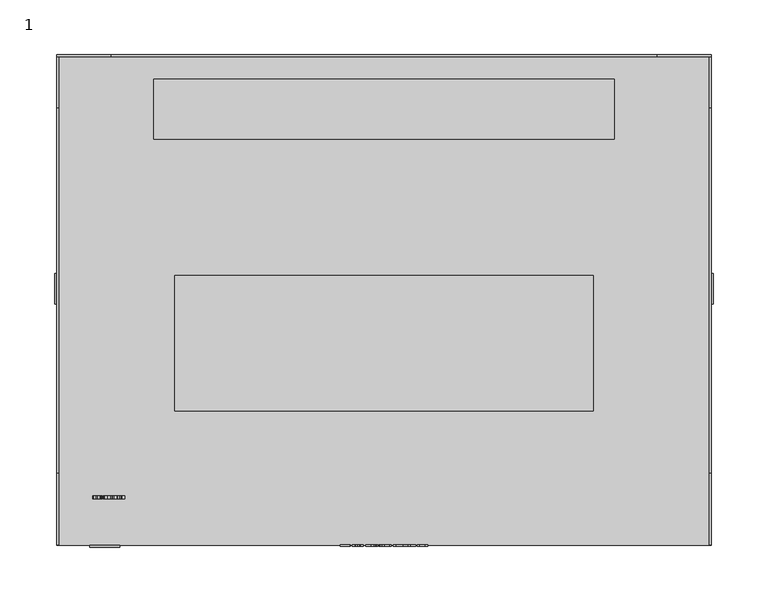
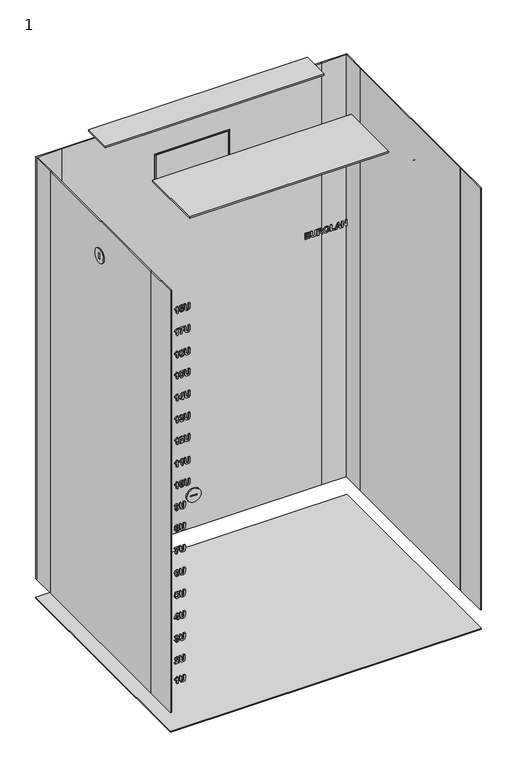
"""IFC4 building model written with IfcOpenShell, lengths in millimetres: proxy geometry, 1 : 18U 450мм металлическая дверь."""

from ifc_helpers import new_model, si_unit, point, frame, frame_2d, origin, origin_with_axes, place, context, project, spatial, polyline, circle_curve, trimmed, segment, composite_curve, outline, extrude, source, transform, mapped, element, save


def proxy_1_87e82789(model_context):
    return source(origin(), model_context, "Body", "SweptSolid", [
        extrude(outline(polyline([(914.0, -40.3245382), (914.0, -30.9964522), (916.1376864, -30.9964522), (916.1376864, -37.9925167), (919.2470483, -37.9925167), (919.2470483, -31.5794576), (921.3847347, -31.5794576), (921.3847347, -37.9925167), (924.1054264, -37.9925167), (924.1054264, -31.1907874), (926.2431128, -31.1907874), (926.2431128, -40.3245382), (914.0, -40.3245382)])), frame((0.0, -226.0, 0.0), z_axis=(0.0, 1.0, 0.0), x_axis=(0.0, 0.0, 1.0)), (0.0, 0.0, 1.0), 1.0),
        extrude(outline(polyline([(926.2431128, -29.053101), (919.7207402, -29.053101), (916.6174512, -28.8071456), (915.2601418, -28.1026808), (914.2095176, -26.6482039), (913.8056649, -23.9487675), (914.1761162, -21.5575346), (915.173602, -20.0954664), (916.7085458, -19.3454543), (919.8209443, -19.1420097), (926.2431128, -19.1420097), (926.2431128, -21.4740312), (919.4960402, -21.4740312), (917.4236383, -21.5924541), (916.3714958, -22.2923642), (915.9433512, -24.0216432), (916.3973059, -25.7979877), (917.5982363, -26.6208755), (919.6387551, -26.7210795), (926.2431128, -26.7210795), (926.2431128, -29.053101)])), frame((0.0, -226.0, 0.0), z_axis=(0.0, 1.0, 0.0), x_axis=(0.0, 0.0, 1.0)), (0.0, 0.0, 1.0), 1.0),
        extrude(outline(polyline([(914.0, -16.8099882), (914.0, -14.4779667), (919.0527132, -13.9435451), (918.9251808, -12.6120459), (918.4560437, -11.8164865), (916.7966039, -10.4242575), (914.0, -8.6509495), (914.0, -5.9272213), (916.3745323, -7.424209), (918.3512849, -8.7238252), (919.3715443, -9.9475291), (920.5071902, -7.6625732), (922.7936644, -6.8988969), (924.7339791, -7.4272455), (925.9121358, -8.8361752), (926.2431128, -11.6601074), (926.2431128, -16.8099882), (914.0, -16.8099882)]), holes=[polyline([(921.1903996, -14.4779667), (924.1054264, -14.4779667), (924.1054264, -12.4495939), (924.0659521, -10.5548264), (923.6150339, -9.5770778), (922.6782779, -9.2309184), (921.817434, -9.4935744), (921.3315962, -10.2223312), (921.1903996, -12.5558709), (921.1903996, -14.4779667)])]), frame((0.0, -226.0, 0.0), z_axis=(0.0, 1.0, 0.0), x_axis=(0.0, 0.0, 1.0)), (0.0, 0.0, 1.0), 1.0),
        extrude(outline(polyline([(920.0456442, -4.9555457), (915.4681411, -3.3735363), (913.8056649, 0.8896905), (915.4757323, 5.1225524), (920.106374, 6.7045618), (924.7628257, 5.1104065), (926.4374479, 0.8593256), (925.9546466, -1.7338337), (924.8539203, -3.2869964), (923.1792981, -4.4059416), (920.0456442, -4.9555457)]), holes=[polyline([(920.1306659, -2.6235242), (923.2612832, -1.6579215), (924.2997616, 0.886654), (923.2734292, 3.4190836), (920.1640672, 4.3725403), (916.9985302, 3.3932735), (915.9433512, 0.886654), (917.0061214, -1.6321114), (920.1306659, -2.6235242)])]), frame((0.0, -226.0, 0.0), z_axis=(0.0, 1.0, 0.0), x_axis=(0.0, 0.0, 1.0)), (0.0, 0.0, 1.0), 1.0),
        extrude(outline(polyline([(914.0, 8.647913), (914.0, 17.1986585), (916.1376864, 17.1986585), (916.1376864, 10.9799345), (926.2431128, 10.9799345), (926.2431128, 8.647913), (914.0, 8.647913)])), frame((0.0, -226.0, 0.0), z_axis=(0.0, 1.0, 0.0), x_axis=(0.0, 0.0, 1.0)), (0.0, 0.0, 1.0), 1.0),
        extrude(outline(polyline([(914.0, 29.2474361), (926.2431128, 24.7352175), (926.2431128, 22.2513717), (914.0, 17.7816638), (914.0, 20.2655096), (916.7206917, 21.2128934), (916.7206917, 25.837462), (914.0, 26.7969917), (914.0, 29.2474361)]), holes=[polyline([(918.8583781, 25.0904864), (918.8583781, 21.959869), (923.3280859, 23.51455), (918.8583781, 25.0904864)])]), frame((0.0, -226.0, 0.0), z_axis=(0.0, 1.0, 0.0), x_axis=(0.0, 0.0, 1.0)), (0.0, 0.0, 1.0), 1.0),
        extrude(outline(polyline([(914.0, 30.4134469), (914.0, 32.7454684), (922.1195644, 32.7454684), (914.0, 37.8042546), (914.0, 40.3245382), (926.2431128, 40.3245382), (926.2431128, 37.9925167), (918.002089, 37.9925167), (926.2431128, 32.8578184), (926.2431128, 30.4134469), (914.0, 30.4134469)])), frame((0.0, -226.0, 0.0), z_axis=(0.0, 1.0, 0.0), x_axis=(0.0, 0.0, 1.0)), (0.0, 0.0, 1.0), 1.0),
        extrude(outline(composite_curve([segment(trimmed(circle_curve(frame_2d((9.997621, 829.4611412)), 14.0), [point((-4.002379, 829.4611412))], [point((23.997621, 829.4611412))], False, "CARTESIAN"), True, "CONTINUOUS"), segment(trimmed(circle_curve(frame_2d((9.997621, 829.4611412)), 14.0), [point((23.997621, 829.4611412))], [point((-4.002379, 829.4611412))], False, "CARTESIAN"), True, "CONTINUOUS")], self_intersect=False), holes=[polyline([(11.0, 835.5), (9.0, 835.5), (9.0, 823.5), (11.0, 823.5), (11.0, 835.5)])]), frame((-302.0, 0.0, 0.0), z_axis=(1.0, 0.0, 0.0), x_axis=(0.0, 1.0, 0.0)), (0.0, 0.0, 1.0), 2.0),
        extrude(outline(composite_curve([segment(trimmed(circle_curve(frame_2d((9.997621, 829.4611412)), 14.0), [point((-4.002379, 829.4611412))], [point((23.997621, 829.4611412))], False, "CARTESIAN"), True, "CONTINUOUS"), segment(trimmed(circle_curve(frame_2d((9.997621, 829.4611412)), 14.0), [point((23.997621, 829.4611412))], [point((-4.002379, 829.4611412))], False, "CARTESIAN"), True, "CONTINUOUS")], self_intersect=False), holes=[polyline([(11.0, 835.5), (9.0, 835.5), (9.0, 823.5), (11.0, 823.5), (11.0, 835.5)])]), frame((300.0, 0.0, 0.0), z_axis=(1.0, 0.0, 0.0), x_axis=(0.0, 1.0, 0.0)), (0.0, 0.0, 1.0), 2.0),
        extrude(outline(composite_curve([segment(trimmed(circle_curve(frame_2d((469.0, -256.0)), 13.7647373), [point((469.0, -242.2352627))], [point((469.0, -269.7647373))], False, "CARTESIAN"), True, "CONTINUOUS"), segment(trimmed(circle_curve(frame_2d((469.0, -256.0)), 13.7647373), [point((469.0, -269.7647373))], [point((469.0, -242.2352627))], False, "CARTESIAN"), True, "CONTINUOUS")], self_intersect=False), holes=[polyline([(470.0, -250.0), (468.0, -250.0), (468.0, -262.0), (470.0, -262.0), (470.0, -250.0)])]), frame((0.0, -227.0, 0.0), z_axis=(0.0, 1.0, 0.0), x_axis=(0.0, 0.0, 1.0)), (0.0, 0.0, 1.0), 2.0),
        extrude(outline(polyline([(300.0, 225.0), (300.0, -225.0), (-300.0, -225.0), (-300.0, 225.0), (300.0, 225.0)])), origin_with_axes(), (0.0, 0.0, 1.0), 2.0),
        extrude(outline(polyline([(211.0, 202.5), (211.0, 147.5), (-211.0, 147.5), (-211.0, 202.5), (211.0, 202.5)])), frame((0.0, 0.0, 934.9795778), z_axis=(0.0, 0.0, 1.0), x_axis=(1.0, 0.0, 0.0)), (0.0, 0.0, 1.0), 3.0204222),
        extrude(outline(polyline([(192.0, 22.0), (192.0, -102.0), (-192.0, -102.0), (-192.0, 22.0), (192.0, 22.0)])), frame((0.0, 0.0, 934.9795778), z_axis=(0.0, 0.0, 1.0), x_axis=(1.0, 0.0, 0.0)), (0.0, 0.0, 1.0), 3.0204222),
        extrude(outline(polyline([(-69.5, 225.0), (69.5, 225.0), (69.5, 223.0), (-69.5, 223.0), (-69.5, 225.0)])), frame((0.0, 0.0, 775.0), z_axis=(0.0, 0.0, 1.0), x_axis=(1.0, 0.0, 0.0)), (0.0, 0.0, 1.0), 49.0),
        extrude(outline(polyline([(900.0, -250.0), (40.0, -250.0), (40.0, 250.0), (900.0, 250.0), (900.0, -250.0)]), holes=[polyline([(827.0, -72.5), (827.0, 72.5), (772.0, 72.5), (772.0, -72.5), (827.0, -72.5)])]), frame((0.0, 223.0, 0.0), z_axis=(0.0, 1.0, 0.0), x_axis=(0.0, 0.0, 1.0)), (0.0, 0.0, 1.0), 2.0),
        extrude(outline(polyline([(-300.0, 225.0), (-250.0, 225.0), (-250.0, 223.0), (-300.0, 223.0), (-300.0, 225.0)])), frame((0.0, 0.0, 40.0), z_axis=(0.0, 0.0, 1.0), x_axis=(1.0, 0.0, 0.0)), (0.0, 0.0, 1.0), 860.0),
        extrude(outline(polyline([(250.0, 225.0), (300.0, 225.0), (300.0, 223.0), (250.0, 223.0), (250.0, 225.0)])), frame((0.0, 0.0, 40.0), z_axis=(0.0, 0.0, 1.0), x_axis=(1.0, 0.0, 0.0)), (0.0, 0.0, 1.0), 860.0),
        extrude(outline(polyline([(-298.0, 175.8155315), (-298.0, -158.7095641), (-300.0, -158.7095641), (-300.0, 175.8155315), (-298.0, 175.8155315)])), frame((0.0, 0.0, 40.0), z_axis=(0.0, 0.0, 1.0), x_axis=(1.0, 0.0, 0.0)), (0.0, 0.0, 1.0), 860.0),
        extrude(outline(polyline([(-298.0, -158.7095641), (-298.0, -225.0), (-300.0, -225.0), (-300.0, -158.7095641), (-298.0, -158.7095641)])), frame((0.0, 0.0, 40.0), z_axis=(0.0, 0.0, 1.0), x_axis=(1.0, 0.0, 0.0)), (0.0, 0.0, 1.0), 860.0),
        extrude(outline(polyline([(-298.0, 225.0), (-298.0, 175.8155315), (-300.0, 175.8155315), (-300.0, 225.0), (-298.0, 225.0)])), frame((0.0, 0.0, 40.0), z_axis=(0.0, 0.0, 1.0), x_axis=(1.0, 0.0, 0.0)), (0.0, 0.0, 1.0), 860.0),
        extrude(outline(polyline([(300.0, 175.8155315), (300.0, -158.7095641), (298.0, -158.7095641), (298.0, 175.8155315), (300.0, 175.8155315)])), frame((0.0, 0.0, 40.0), z_axis=(0.0, 0.0, 1.0), x_axis=(1.0, 0.0, 0.0)), (0.0, 0.0, 1.0), 860.0),
        extrude(outline(polyline([(300.0, 225.0), (300.0, 175.8155315), (298.0, 175.8155315), (298.0, 225.0), (300.0, 225.0)])), frame((0.0, 0.0, 40.0), z_axis=(0.0, 0.0, 1.0), x_axis=(1.0, 0.0, 0.0)), (0.0, 0.0, 1.0), 860.0),
        extrude(outline(polyline([(300.0, -158.7095641), (300.0, -225.0), (298.0, -225.0), (298.0, -158.7095641), (300.0, -158.7095641)])), frame((0.0, 0.0, 40.0), z_axis=(0.0, 0.0, 1.0), x_axis=(1.0, 0.0, 0.0)), (0.0, 0.0, 1.0), 860.0),
        extrude(outline(polyline([(814.9283299, -260.6030776), (827.1714427, -260.6030776), (827.1714427, -262.4614073), (825.2053178, -263.9037383), (824.0620807, -265.850126), (821.7300592, -265.850126), (823.6794834, -262.9350991), (814.9283299, -262.9350991), (814.9283299, -260.6030776)])), frame((0.0, -182.6777479, 0.0), z_axis=(0.0, 1.0, 0.0), x_axis=(0.0, 0.0, 1.0)), (0.0, 0.0, 1.0), 3.0),
        extrude(outline(polyline([(821.4962498, -255.0584536), (820.2254803, -256.6116164), (818.4172527, -257.1050454), (815.6024299, -255.8388306), (814.7339948, -253.1545767), (815.784619, -250.3761917), (818.5174567, -249.3316405), (820.3120201, -249.8584708), (821.4962498, -251.3964511), (822.508918, -250.0163681), (824.0226064, -249.5259756), (826.280234, -250.4946147), (827.1714427, -253.2183429), (826.280234, -255.9496624), (824.0226064, -256.9107103), (822.5499105, -256.4704198), (821.4962498, -255.0584536)]), holes=[polyline([(823.8798915, -254.5786888), (825.000355, -254.205201), (825.4224266, -253.2031605), (825.0033915, -252.2269302), (823.889001, -251.8579971), (822.7320997, -252.2314849), (822.3130646, -253.2274524), (822.727545, -254.2097557), (823.8798915, -254.5786888)]), polyline([(818.6146243, -254.7730239), (819.94916, -254.3889084), (820.5640485, -253.2213794), (820.0220357, -252.1039525), (818.5872959, -251.6636619), (817.0250237, -252.0963612), (816.4830109, -253.1910146), (817.0462791, -254.3205875), (818.6146243, -254.7730239)])]), frame((0.0, -182.6777479, 0.0), z_axis=(0.0, 1.0, 0.0), x_axis=(0.0, 0.0, 1.0)), (0.0, 0.0, 1.0), 3.0),
        extrude(outline(polyline([(827.1714427, -247.3882892), (820.6490701, -247.3882892), (817.5457811, -247.1423338), (816.1884717, -246.437869), (815.1378475, -244.9833921), (814.7339948, -242.2839557), (815.1044461, -239.8927228), (816.1019319, -238.4306546), (817.6368757, -237.6806425), (820.7492742, -237.4771979), (827.1714427, -237.4771979), (827.1714427, -239.8092194), (820.4243701, -239.8092194), (818.3519682, -239.9276424), (817.2998257, -240.6275524), (816.8716811, -242.3568314), (817.3256358, -244.1331759), (818.5265662, -244.9560637), (820.567085, -245.0562677), (827.1714427, -245.0562677), (827.1714427, -247.3882892)])), frame((0.0, -182.6777479, 0.0), z_axis=(0.0, 1.0, 0.0), x_axis=(0.0, 0.0, 1.0)), (0.0, 0.0, 1.0), 3.0),
        extrude(outline(polyline([(769.9283299, -260.6030776), (782.1714427, -260.6030776), (782.1714427, -262.4614073), (780.2053178, -263.9037383), (779.0620807, -265.850126), (776.7300592, -265.850126), (778.6794834, -262.9350991), (769.9283299, -262.9350991), (769.9283299, -260.6030776)])), frame((0.0, -182.6777479, 0.0), z_axis=(0.0, 1.0, 0.0), x_axis=(0.0, 0.0, 1.0)), (0.0, 0.0, 1.0), 3.0),
        extrude(outline(polyline([(779.6450861, -257.1050454), (779.6450861, -251.9976754), (775.0129262, -254.6804111), (769.9283299, -255.7446995), (769.9283299, -253.4126781), (773.5812229, -252.8873659), (777.440597, -251.3342032), (780.2280915, -249.3316405), (781.9771076, -249.3316405), (781.9771076, -257.1050454), (779.6450861, -257.1050454)])), frame((0.0, -182.6777479, 0.0), z_axis=(0.0, 1.0, 0.0), x_axis=(0.0, 0.0, 1.0)), (0.0, 0.0, 1.0), 3.0),
        extrude(outline(polyline([(782.1714427, -247.3882892), (775.6490701, -247.3882892), (772.5457811, -247.1423338), (771.1884717, -246.437869), (770.1378475, -244.9833921), (769.7339948, -242.2839557), (770.1044461, -239.8927228), (771.1019319, -238.4306546), (772.6368757, -237.6806425), (775.7492742, -237.4771979), (782.1714427, -237.4771979), (782.1714427, -239.8092194), (775.4243701, -239.8092194), (773.3519682, -239.9276424), (772.2998257, -240.6275524), (771.8716811, -242.3568314), (772.3256358, -244.1331759), (773.5265662, -244.9560637), (775.567085, -245.0562677), (782.1714427, -245.0562677), (782.1714427, -247.3882892)])), frame((0.0, -182.6777479, 0.0), z_axis=(0.0, 1.0, 0.0), x_axis=(0.0, 0.0, 1.0)), (0.0, 0.0, 1.0), 3.0),
        extrude(outline(polyline([(723.5967514, -260.6030776), (735.8398642, -260.6030776), (735.8398642, -262.4614073), (733.8737393, -263.9037383), (732.7305022, -265.850126), (730.3984808, -265.850126), (732.347905, -262.9350991), (723.5967514, -262.9350991), (723.5967514, -260.6030776)])), frame((0.0, -182.6777479, 0.0), z_axis=(0.0, 1.0, 0.0), x_axis=(0.0, 0.0, 1.0)), (0.0, 0.0, 1.0), 3.0),
        extrude(outline(polyline([(732.5908239, -249.5259756), (735.007867, -250.6373296), (735.8398642, -252.8387821), (734.3610954, -255.9192975), (729.5330822, -257.1050454), (724.8356378, -255.9693995), (723.4024163, -253.0725916), (724.512252, -250.3792282), (727.4561255, -249.3316405), (730.2770213, -250.3564546), (731.3701564, -252.8205632), (730.3468605, -254.9521766), (733.0569245, -254.3357699), (733.7021779, -253.1393943), (733.3696826, -252.2709592), (732.341832, -251.8579971), (732.5908239, -249.5259756)]), holes=[polyline([(727.5077458, -254.7730239), (728.795216, -254.3251422), (729.23247, -253.2304889), (728.7754788, -252.1115437), (727.3346661, -251.6636619), (725.9591378, -252.0796606), (725.5401027, -253.1181389), (726.0517506, -254.2689672), (727.5077458, -254.7730239)])]), frame((0.0, -182.6777479, 0.0), z_axis=(0.0, 1.0, 0.0), x_axis=(0.0, 0.0, 1.0)), (0.0, 0.0, 1.0), 3.0),
        extrude(outline(polyline([(735.8398642, -247.3882892), (729.3174916, -247.3882892), (726.2142026, -247.1423338), (724.8568932, -246.437869), (723.806269, -244.9833921), (723.4024163, -242.2839557), (723.7728676, -239.8927228), (724.7703534, -238.4306546), (726.3052972, -237.6806425), (729.4176957, -237.4771979), (735.8398642, -237.4771979), (735.8398642, -239.8092194), (729.0927916, -239.8092194), (727.0203897, -239.9276424), (725.9682472, -240.6275524), (725.5401027, -242.3568314), (725.9940574, -244.1331759), (727.1949877, -244.9560637), (729.2355065, -245.0562677), (735.8398642, -245.0562677), (735.8398642, -247.3882892)])), frame((0.0, -182.6777479, 0.0), z_axis=(0.0, 1.0, 0.0), x_axis=(0.0, 0.0, 1.0)), (0.0, 0.0, 1.0), 3.0),
        extrude(outline(polyline([(680.748317, -260.6030776), (692.9914298, -260.6030776), (692.9914298, -262.4614073), (691.0253049, -263.9037383), (689.8820678, -265.850126), (687.5500463, -265.850126), (689.4994705, -262.9350991), (680.748317, -262.9350991), (680.748317, -260.6030776)])), frame((0.0, -182.6777479, 0.0), z_axis=(0.0, 1.0, 0.0), x_axis=(0.0, 0.0, 1.0)), (0.0, 0.0, 1.0), 3.0),
        extrude(outline(polyline([(684.1947289, -257.1050454), (681.5408399, -255.8676772), (680.5539818, -253.194051), (682.1268817, -249.984485), (684.7473694, -249.1373053), (687.6122943, -250.1545282), (688.716057, -252.6323011), (688.2393287, -254.1353618), (690.4650731, -253.6647064), (690.4650731, -249.7203107), (692.7970946, -249.7203107), (692.7970946, -255.5503644), (685.9073072, -256.9107103), (685.606695, -254.8884104), (686.5783707, -253.1819051), (686.1077153, -251.9445369), (684.6957492, -251.4693268), (683.1911702, -251.9809748), (682.6916682, -253.2304889), (683.1623236, -254.3722077), (684.4406843, -254.967359), (684.1947289, -257.1050454)])), frame((0.0, -182.6777479, 0.0), z_axis=(0.0, 1.0, 0.0), x_axis=(0.0, 0.0, 1.0)), (0.0, 0.0, 1.0), 3.0),
        extrude(outline(polyline([(692.9914298, -247.3882892), (686.4690572, -247.3882892), (683.3657682, -247.1423338), (682.0084588, -246.437869), (680.9578345, -244.9833921), (680.5539818, -242.2839557), (680.9244332, -239.8927228), (681.9219189, -238.4306546), (683.4568627, -237.6806425), (686.5692612, -237.4771979), (692.9914298, -237.4771979), (692.9914298, -239.8092194), (686.2443572, -239.8092194), (684.1719553, -239.9276424), (683.1198128, -240.6275524), (682.6916682, -242.3568314), (683.1456229, -244.1331759), (684.3465532, -244.9560637), (686.387072, -245.0562677), (692.9914298, -245.0562677), (692.9914298, -247.3882892)])), frame((0.0, -182.6777479, 0.0), z_axis=(0.0, 1.0, 0.0), x_axis=(0.0, 0.0, 1.0)), (0.0, 0.0, 1.0), 3.0),
        extrude(outline(polyline([(636.0351924, -260.6030776), (648.2783052, -260.6030776), (648.2783052, -262.4614073), (646.3121803, -263.9037383), (645.1689432, -265.850126), (642.8369217, -265.850126), (644.7863459, -262.9350991), (636.0351924, -262.9350991), (636.0351924, -260.6030776)])), frame((0.0, -182.6777479, 0.0), z_axis=(0.0, 1.0, 0.0), x_axis=(0.0, 0.0, 1.0)), (0.0, 0.0, 1.0), 3.0),
        extrude(outline(polyline([(636.0351924, -252.8296727), (636.0351924, -250.4976512), (638.561549, -250.4976512), (638.561549, -248.9429702), (640.5049002, -248.9429702), (640.5049002, -250.4976512), (648.08397, -250.4976512), (648.08397, -252.5199511), (640.4957907, -257.4937157), (638.561549, -257.4937157), (638.561549, -252.8296727), (636.0351924, -252.8296727)]), holes=[polyline([(640.5049002, -252.8296727), (640.5049002, -255.4349779), (644.4826973, -252.8296727), (640.5049002, -252.8296727)])]), frame((0.0, -182.6777479, 0.0), z_axis=(0.0, 1.0, 0.0), x_axis=(0.0, 0.0, 1.0)), (0.0, 0.0, 1.0), 3.0),
        extrude(outline(polyline([(648.2783052, -247.3882892), (641.7559326, -247.3882892), (638.6526436, -247.1423338), (637.2953342, -246.437869), (636.2447099, -244.9833921), (635.8408572, -242.2839557), (636.2113086, -239.8927228), (637.2087943, -238.4306546), (638.7437381, -237.6806425), (641.8561366, -237.4771979), (648.2783052, -237.4771979), (648.2783052, -239.8092194), (641.5312326, -239.8092194), (639.4588307, -239.9276424), (638.4066882, -240.6275524), (637.9785436, -242.3568314), (638.4324983, -244.1331759), (639.6334286, -244.9560637), (641.6739474, -245.0562677), (648.2783052, -245.0562677), (648.2783052, -247.3882892)])), frame((0.0, -182.6777479, 0.0), z_axis=(0.0, 1.0, 0.0), x_axis=(0.0, 0.0, 1.0)), (0.0, 0.0, 1.0), 3.0),
        extrude(outline(polyline([(591.485825, -260.6030776), (603.7289378, -260.6030776), (603.7289378, -262.4614073), (601.762813, -263.9037383), (600.6195759, -265.850126), (598.2875544, -265.850126), (600.2369786, -262.9350991), (591.485825, -262.9350991), (591.485825, -260.6030776)])), frame((0.0, -182.6777479, 0.0), z_axis=(0.0, 1.0, 0.0), x_axis=(0.0, 0.0, 1.0)), (0.0, 0.0, 1.0), 3.0),
        extrude(outline(polyline([(594.9079451, -257.1050454), (592.2920122, -255.8919691), (591.2914899, -253.2578173), (592.4165081, -250.4566586), (595.1356816, -249.3316405), (597.0137484, -249.9662661), (598.0142706, -251.6606255), (600.5861745, -249.9146458), (602.6266933, -250.7284242), (603.7289378, -253.3458754), (603.3311581, -255.0690813), (602.2395413, -256.2684934), (600.3857664, -256.9107103), (600.0365705, -254.5786888), (601.19499, -254.1611719), (601.5912515, -253.3306929), (601.2496468, -252.5427247), (600.3341462, -252.2466673), (599.253157, -252.6429288), (598.8705597, -253.7922388), (596.9484639, -253.9956834), (597.1215436, -253.0695551), (596.6387423, -252.0720693), (595.3300167, -251.6636619), (593.9438607, -252.1100254), (593.4291763, -253.21227), (593.8785763, -254.2477118), (595.1781924, -254.7730239), (594.9079451, -257.1050454)])), frame((0.0, -182.6777479, 0.0), z_axis=(0.0, 1.0, 0.0), x_axis=(0.0, 0.0, 1.0)), (0.0, 0.0, 1.0), 3.0),
        extrude(outline(polyline([(603.7289378, -247.3882892), (597.2065653, -247.3882892), (594.1032762, -247.1423338), (592.7459669, -246.437869), (591.6953426, -244.9833921), (591.2914899, -242.2839557), (591.6619413, -239.8927228), (592.659427, -238.4306546), (594.1943708, -237.6806425), (597.3067693, -237.4771979), (603.7289378, -237.4771979), (603.7289378, -239.8092194), (596.9818653, -239.8092194), (594.9094634, -239.9276424), (593.8573209, -240.6275524), (593.4291763, -242.3568314), (593.883131, -244.1331759), (595.0840613, -244.9560637), (597.1245801, -245.0562677), (603.7289378, -245.0562677), (603.7289378, -247.3882892)])), frame((0.0, -182.6777479, 0.0), z_axis=(0.0, 1.0, 0.0), x_axis=(0.0, 0.0, 1.0)), (0.0, 0.0, 1.0), 3.0),
        extrude(outline(polyline([(547.6333267, -260.6030776), (559.8764395, -260.6030776), (559.8764395, -262.4614073), (557.9103146, -263.9037383), (556.7670775, -265.850126), (554.435056, -265.850126), (556.3844802, -262.9350991), (547.6333267, -262.9350991), (547.6333267, -260.6030776)])), frame((0.0, -182.6777479, 0.0), z_axis=(0.0, 1.0, 0.0), x_axis=(0.0, 0.0, 1.0)), (0.0, 0.0, 1.0), 3.0),
        extrude(outline(polyline([(549.9653481, -249.3316405), (550.6030103, -253.2395983), (551.9299548, -251.9080991), (553.4603439, -250.4581769), (554.9937695, -249.6018877), (556.5363045, -249.3316405), (558.918428, -250.3184985), (559.8764395, -253.0331173), (559.0216686, -255.6596779), (556.202291, -256.9107103), (555.989737, -254.5786888), (557.3333822, -254.1292888), (557.7387531, -253.0847375), (557.3273092, -252.0417045), (556.1476343, -251.6636619), (554.7447776, -252.1130619), (552.7892804, -253.9167348), (549.9213191, -256.3611063), (547.6333267, -257.1050454), (547.6333267, -249.3316405), (549.9653481, -249.3316405)])), frame((0.0, -182.6777479, 0.0), z_axis=(0.0, 1.0, 0.0), x_axis=(0.0, 0.0, 1.0)), (0.0, 0.0, 1.0), 3.0),
        extrude(outline(polyline([(559.8764395, -247.3882892), (553.3540669, -247.3882892), (550.2507779, -247.1423338), (548.8934685, -246.437869), (547.8428442, -244.9833921), (547.4389915, -242.2839557), (547.8094429, -239.8927228), (548.8069286, -238.4306546), (550.3418725, -237.6806425), (553.4542709, -237.4771979), (559.8764395, -237.4771979), (559.8764395, -239.8092194), (553.1293669, -239.8092194), (551.056965, -239.9276424), (550.0048225, -240.6275524), (549.5766779, -242.3568314), (550.0306326, -244.1331759), (551.2315629, -244.9560637), (553.2720817, -245.0562677), (559.8764395, -245.0562677), (559.8764395, -247.3882892)])), frame((0.0, -182.6777479, 0.0), z_axis=(0.0, 1.0, 0.0), x_axis=(0.0, 0.0, 1.0)), (0.0, 0.0, 1.0), 3.0),
        extrude(outline(polyline([(501.1786301, -260.6030776), (513.4217429, -260.6030776), (513.4217429, -262.4614073), (511.455618, -263.9037383), (510.3123809, -265.850126), (507.9803594, -265.850126), (509.9297836, -262.9350991), (501.1786301, -262.9350991), (501.1786301, -260.6030776)])), frame((0.0, -182.6777479, 0.0), z_axis=(0.0, 1.0, 0.0), x_axis=(0.0, 0.0, 1.0)), (0.0, 0.0, 1.0), 3.0),
        extrude(outline(polyline([(501.1786301, -251.2749917), (513.4217429, -251.2749917), (513.4217429, -253.1333213), (511.455618, -254.5756523), (510.3123809, -256.52204), (507.9803594, -256.52204), (509.9297836, -253.6070132), (501.1786301, -253.6070132), (501.1786301, -251.2749917)])), frame((0.0, -182.6777479, 0.0), z_axis=(0.0, 1.0, 0.0), x_axis=(0.0, 0.0, 1.0)), (0.0, 0.0, 1.0), 3.0),
        extrude(outline(polyline([(513.4217429, -247.3882892), (506.8993703, -247.3882892), (503.7960813, -247.1423338), (502.4387719, -246.437869), (501.3881476, -244.9833921), (500.9842949, -242.2839557), (501.3547463, -239.8927228), (502.352232, -238.4306546), (503.8871758, -237.6806425), (506.9995743, -237.4771979), (513.4217429, -237.4771979), (513.4217429, -239.8092194), (506.6746703, -239.8092194), (504.6022684, -239.9276424), (503.5501259, -240.6275524), (503.1219813, -242.3568314), (503.575936, -244.1331759), (504.7768663, -244.9560637), (506.8173851, -245.0562677), (513.4217429, -245.0562677), (513.4217429, -247.3882892)])), frame((0.0, -182.6777479, 0.0), z_axis=(0.0, 1.0, 0.0), x_axis=(0.0, 0.0, 1.0)), (0.0, 0.0, 1.0), 3.0),
        extrude(outline(polyline([(457.3261317, -260.6030776), (469.5692445, -260.6030776), (469.5692445, -262.4614073), (467.6031196, -263.9037383), (466.4598825, -265.850126), (464.127861, -265.850126), (466.0772852, -262.9350991), (457.3261317, -262.9350991), (457.3261317, -260.6030776)])), frame((0.0, -182.6777479, 0.0), z_axis=(0.0, 1.0, 0.0), x_axis=(0.0, 0.0, 1.0)), (0.0, 0.0, 1.0), 3.0),
        extrude(outline(polyline([(469.5692445, -253.2183429), (468.3242851, -255.9299252), (463.3717759, -257.1050454), (458.4982154, -256.034684), (457.1317966, -253.2183429), (458.3767559, -250.5067607), (463.347484, -249.3316405), (468.3060662, -250.5006877), (469.5692445, -253.2183429)]), holes=[polyline([(467.4315581, -253.2183429), (467.174975, -252.4455572), (466.1531974, -251.8853254), (463.347484, -251.6636619), (460.4476396, -251.9126538), (459.526066, -252.4410024), (459.2694829, -253.2183429), (459.5230295, -253.9911287), (460.5402524, -254.5513604), (463.347484, -254.7730239), (466.2534014, -254.524032), (467.174975, -253.9956834), (467.4315581, -253.2183429)])]), frame((0.0, -182.6777479, 0.0), z_axis=(0.0, 1.0, 0.0), x_axis=(0.0, 0.0, 1.0)), (0.0, 0.0, 1.0), 3.0),
        extrude(outline(polyline([(469.5692445, -247.3882892), (463.0468719, -247.3882892), (459.9435829, -247.1423338), (458.5862735, -246.437869), (457.5356492, -244.9833921), (457.1317966, -242.2839557), (457.5022479, -239.8927228), (458.4997336, -238.4306546), (460.0346775, -237.6806425), (463.1470759, -237.4771979), (469.5692445, -237.4771979), (469.5692445, -239.8092194), (462.8221719, -239.8092194), (460.74977, -239.9276424), (459.6976275, -240.6275524), (459.2694829, -242.3568314), (459.7234376, -244.1331759), (460.924368, -244.9560637), (462.9648868, -245.0562677), (469.5692445, -245.0562677), (469.5692445, -247.3882892)])), frame((0.0, -182.6777479, 0.0), z_axis=(0.0, 1.0, 0.0), x_axis=(0.0, 0.0, 1.0)), (0.0, 0.0, 1.0), 3.0),
        extrude(outline(polyline([(416.2414631, -266.2387962), (413.8062011, -265.1547706), (412.9924228, -262.9381356), (414.4696734, -259.8469925), (419.2870589, -258.6597264), (423.9981674, -259.7953723), (425.4298707, -262.7012897), (424.3169985, -265.3809888), (421.3852709, -266.4331314), (418.550711, -265.4083172), (417.4621306, -262.971537), (418.476317, -260.8065222), (415.7753625, -261.4290019), (415.1301091, -262.6071586), (415.4641226, -263.4922944), (416.490455, -263.9067747), (416.2414631, -266.2387962)]), holes=[polyline([(421.3306142, -260.9917479), (420.0385892, -261.4365931), (419.599817, -262.5312464), (420.0568082, -263.6517099), (421.4885115, -264.1011099), (422.8701127, -263.6881477), (423.2921843, -262.6496694), (422.7774999, -261.4927681), (421.3306142, -260.9917479)])]), frame((0.0, -182.6777479, 0.0), z_axis=(0.0, 1.0, 0.0), x_axis=(0.0, 0.0, 1.0)), (0.0, 0.0, 1.0), 3.0),
        extrude(outline(polyline([(425.4298707, -256.7163752), (418.9074981, -256.7163752), (415.8042091, -256.4704198), (414.4468997, -255.7659549), (413.3962754, -254.311478), (412.9924228, -251.6120417), (413.3628741, -249.2208087), (414.3603599, -247.7587405), (415.8953037, -247.0087284), (419.0077021, -246.8052838), (425.4298707, -246.8052838), (425.4298707, -249.1373053), (418.6827981, -249.1373053), (416.6103962, -249.2557283), (415.5582537, -249.9556384), (415.1301091, -251.6849173), (415.5840638, -253.4612618), (416.7849942, -254.2841496), (418.825513, -254.3843537), (425.4298707, -254.3843537), (425.4298707, -256.7163752)])), frame((0.0, -182.6777479, 0.0), z_axis=(0.0, 1.0, 0.0), x_axis=(0.0, 0.0, 1.0)), (0.0, 0.0, 1.0), 3.0),
        extrude(outline(polyline([(376.4962498, -264.3865396), (375.2254803, -265.9397023), (373.4172527, -266.4331314), (370.6024299, -265.1669166), (369.7339948, -262.4826627), (370.784619, -259.7042777), (373.5174567, -258.6597264), (375.3120201, -259.1865568), (376.4962498, -260.7245371), (377.508918, -259.3444541), (379.0226064, -258.8540615), (381.280234, -259.8227007), (382.1714427, -262.5464289), (381.280234, -265.2777483), (379.0226064, -266.2387962), (377.5499105, -265.7985057), (376.4962498, -264.3865396)]), holes=[polyline([(378.8798915, -263.9067747), (380.000355, -263.5332869), (380.4224266, -262.5312464), (380.0033915, -261.5550161), (378.889001, -261.186083), (377.7320997, -261.5595708), (377.3130646, -262.5555383), (377.727545, -263.5378417), (378.8798915, -263.9067747)]), polyline([(373.6146243, -264.1011099), (374.94916, -263.7169943), (375.5640485, -262.5494654), (375.0220357, -261.4320384), (373.5872959, -260.9917479), (372.0250237, -261.4244472), (371.4830109, -262.5191005), (372.0462791, -263.6486734), (373.6146243, -264.1011099)])]), frame((0.0, -182.6777479, 0.0), z_axis=(0.0, 1.0, 0.0), x_axis=(0.0, 0.0, 1.0)), (0.0, 0.0, 1.0), 3.0),
        extrude(outline(polyline([(382.1714427, -256.7163752), (375.6490701, -256.7163752), (372.5457811, -256.4704198), (371.1884717, -255.7659549), (370.1378475, -254.311478), (369.7339948, -251.6120417), (370.1044461, -249.2208087), (371.1019319, -247.7587405), (372.6368757, -247.0087284), (375.7492742, -246.8052838), (382.1714427, -246.8052838), (382.1714427, -249.1373053), (375.4243701, -249.1373053), (373.3519682, -249.2557283), (372.2998257, -249.9556384), (371.8716811, -251.6849173), (372.3256358, -253.4612618), (373.5265662, -254.2841496), (375.567085, -254.3843537), (382.1714427, -254.3843537), (382.1714427, -256.7163752)])), frame((0.0, -182.6777479, 0.0), z_axis=(0.0, 1.0, 0.0), x_axis=(0.0, 0.0, 1.0)), (0.0, 0.0, 1.0), 3.0),
        extrude(outline(polyline([(334.6450861, -266.4331314), (334.6450861, -261.3257614), (330.0129262, -264.008497), (324.9283299, -265.0727855), (324.9283299, -262.740764), (328.5812229, -262.2154519), (332.440597, -260.6622891), (335.2280915, -258.6597264), (336.9771076, -258.6597264), (336.9771076, -266.4331314), (334.6450861, -266.4331314)])), frame((0.0, -182.6777479, 0.0), z_axis=(0.0, 1.0, 0.0), x_axis=(0.0, 0.0, 1.0)), (0.0, 0.0, 1.0), 3.0),
        extrude(outline(polyline([(337.1714427, -256.7163752), (330.6490701, -256.7163752), (327.5457811, -256.4704198), (326.1884717, -255.7659549), (325.1378475, -254.311478), (324.7339948, -251.6120417), (325.1044461, -249.2208087), (326.1019319, -247.7587405), (327.6368757, -247.0087284), (330.7492742, -246.8052838), (337.1714427, -246.8052838), (337.1714427, -249.1373053), (330.4243701, -249.1373053), (328.3519682, -249.2557283), (327.2998257, -249.9556384), (326.8716811, -251.6849173), (327.3256358, -253.4612618), (328.5265662, -254.2841496), (330.567085, -254.3843537), (337.1714427, -254.3843537), (337.1714427, -256.7163752)])), frame((0.0, -182.6777479, 0.0), z_axis=(0.0, 1.0, 0.0), x_axis=(0.0, 0.0, 1.0)), (0.0, 0.0, 1.0), 3.0),
        extrude(outline(polyline([(287.6111434, -258.8540615), (290.0281866, -259.9654155), (290.8601838, -262.1668681), (289.381415, -265.2473834), (284.5534017, -266.4331314), (279.8559574, -265.2974855), (278.4227359, -262.4006775), (279.5325716, -259.7073142), (282.4764451, -258.6597264), (285.2973409, -259.6845405), (286.390476, -262.1486492), (285.3671801, -264.2802626), (288.0772441, -263.6638558), (288.7224974, -262.4674802), (288.3900022, -261.5990451), (287.3621516, -261.186083), (287.6111434, -258.8540615)]), holes=[polyline([(282.5280654, -264.1011099), (283.8155356, -263.6532281), (284.2527896, -262.5585748), (283.7957984, -261.4396296), (282.3549856, -260.9917479), (280.9794573, -261.4077465), (280.5604222, -262.4462248), (281.0720702, -263.5970531), (282.5280654, -264.1011099)])]), frame((0.0, -182.6777479, 0.0), z_axis=(0.0, 1.0, 0.0), x_axis=(0.0, 0.0, 1.0)), (0.0, 0.0, 1.0), 3.0),
        extrude(outline(polyline([(290.8601838, -256.7163752), (284.3378112, -256.7163752), (281.2345222, -256.4704198), (279.8772128, -255.7659549), (278.8265886, -254.311478), (278.4227359, -251.6120417), (278.7931872, -249.2208087), (279.790673, -247.7587405), (281.3256168, -247.0087284), (284.4380153, -246.8052838), (290.8601838, -246.8052838), (290.8601838, -249.1373053), (284.1131112, -249.1373053), (282.0407093, -249.2557283), (280.9885668, -249.9556384), (280.5604222, -251.6849173), (281.0143769, -253.4612618), (282.2153073, -254.2841496), (284.2558261, -254.3843537), (290.8601838, -254.3843537), (290.8601838, -256.7163752)])), frame((0.0, -182.6777479, 0.0), z_axis=(0.0, 1.0, 0.0), x_axis=(0.0, 0.0, 1.0)), (0.0, 0.0, 1.0), 3.0),
        extrude(outline(polyline([(237.3503584, -266.4331314), (234.6964693, -265.1957632), (233.7096113, -262.522137), (235.2825112, -259.312571), (237.9029989, -258.4653913), (240.7679237, -259.4826142), (241.8716865, -261.960387), (241.3949581, -263.4634477), (243.6207026, -262.9927924), (243.6207026, -259.0483966), (245.9527241, -259.0483966), (245.9527241, -264.8784504), (239.0629366, -266.2387962), (238.7623245, -264.2164963), (239.7340001, -262.509991), (239.2633447, -261.2726229), (237.8513786, -260.7974128), (236.3467996, -261.3090607), (235.8472976, -262.5585748), (236.317953, -263.7002937), (237.5963138, -264.295445), (237.3503584, -266.4331314)])), frame((0.0, -182.6777479, 0.0), z_axis=(0.0, 1.0, 0.0), x_axis=(0.0, 0.0, 1.0)), (0.0, 0.0, 1.0), 3.0),
        extrude(outline(polyline([(246.1470592, -256.7163752), (239.6246866, -256.7163752), (236.5213976, -256.4704198), (235.1640882, -255.7659549), (234.113464, -254.311478), (233.7096113, -251.6120417), (234.0800626, -249.2208087), (235.0775484, -247.7587405), (236.6124922, -247.0087284), (239.7248907, -246.8052838), (246.1470592, -246.8052838), (246.1470592, -249.1373053), (239.3999866, -249.1373053), (237.3275847, -249.2557283), (236.2754422, -249.9556384), (235.8472976, -251.6849173), (236.3012523, -253.4612618), (237.5021827, -254.2841496), (239.5427015, -254.3843537), (246.1470592, -254.3843537), (246.1470592, -256.7163752)])), frame((0.0, -182.6777479, 0.0), z_axis=(0.0, 1.0, 0.0), x_axis=(0.0, 0.0, 1.0)), (0.0, 0.0, 1.0), 3.0),
        extrude(outline(polyline([(189.9283299, -262.1577586), (189.9283299, -259.8257371), (192.4546865, -259.8257371), (192.4546865, -258.2710562), (194.3980377, -258.2710562), (194.3980377, -259.8257371), (201.9771076, -259.8257371), (201.9771076, -261.848037), (194.3889283, -266.8218016), (192.4546865, -266.8218016), (192.4546865, -262.1577586), (189.9283299, -262.1577586)]), holes=[polyline([(194.3980377, -262.1577586), (194.3980377, -264.7630639), (198.3758348, -262.1577586), (194.3980377, -262.1577586)])]), frame((0.0, -182.6777479, 0.0), z_axis=(0.0, 1.0, 0.0), x_axis=(0.0, 0.0, 1.0)), (0.0, 0.0, 1.0), 3.0),
        extrude(outline(polyline([(202.1714427, -256.7163752), (195.6490701, -256.7163752), (192.5457811, -256.4704198), (191.1884717, -255.7659549), (190.1378475, -254.311478), (189.7339948, -251.6120417), (190.1044461, -249.2208087), (191.1019319, -247.7587405), (192.6368757, -247.0087284), (195.7492742, -246.8052838), (202.1714427, -246.8052838), (202.1714427, -249.1373053), (195.4243701, -249.1373053), (193.3519682, -249.2557283), (192.2998257, -249.9556384), (191.8716811, -251.6849173), (192.3256358, -253.4612618), (193.5265662, -254.2841496), (195.567085, -254.3843537), (202.1714427, -254.3843537), (202.1714427, -256.7163752)])), frame((0.0, -182.6777479, 0.0), z_axis=(0.0, 1.0, 0.0), x_axis=(0.0, 0.0, 1.0)), (0.0, 0.0, 1.0), 3.0),
        extrude(outline(polyline([(148.35045, -266.4331314), (145.734517, -265.2200551), (144.7339948, -262.5859032), (145.859013, -259.7847446), (148.5781864, -258.6597264), (150.4562532, -259.294352), (151.4567755, -260.9887114), (154.0286794, -259.2427318), (156.0691982, -260.0565101), (157.1714427, -262.6739613), (156.773663, -264.3971673), (155.6820462, -265.5965794), (153.8282713, -266.2387962), (153.4790753, -263.9067747), (154.6374949, -263.4892579), (155.0337563, -262.6587789), (154.6921516, -261.8708107), (153.776651, -261.5747533), (152.6956619, -261.9710147), (152.3130646, -263.1203248), (150.3909688, -263.3237694), (150.5640485, -262.397641), (150.0812472, -261.4001553), (148.7725216, -260.9917479), (147.3863656, -261.4381114), (146.8716811, -262.5403559), (147.3210811, -263.5757977), (148.6206973, -264.1011099), (148.35045, -266.4331314)])), frame((0.0, -182.6777479, 0.0), z_axis=(0.0, 1.0, 0.0), x_axis=(0.0, 0.0, 1.0)), (0.0, 0.0, 1.0), 3.0),
        extrude(outline(polyline([(157.1714427, -256.7163752), (150.6490701, -256.7163752), (147.5457811, -256.4704198), (146.1884717, -255.7659549), (145.1378475, -254.311478), (144.7339948, -251.6120417), (145.1044461, -249.2208087), (146.1019319, -247.7587405), (147.6368757, -247.0087284), (150.7492742, -246.8052838), (157.1714427, -246.8052838), (157.1714427, -249.1373053), (150.4243701, -249.1373053), (148.3519682, -249.2557283), (147.2998257, -249.9556384), (146.8716811, -251.6849173), (147.3256358, -253.4612618), (148.5265662, -254.2841496), (150.567085, -254.3843537), (157.1714427, -254.3843537), (157.1714427, -256.7163752)])), frame((0.0, -182.6777479, 0.0), z_axis=(0.0, 1.0, 0.0), x_axis=(0.0, 0.0, 1.0)), (0.0, 0.0, 1.0), 3.0),
        extrude(outline(polyline([(103.3014708, -258.8246798), (103.9391329, -262.7326376), (105.2660774, -261.4011384), (106.7964665, -259.9512162), (108.3298921, -259.094927), (109.8724272, -258.8246798), (112.2545507, -259.8115378), (113.2125621, -262.5261566), (112.3577912, -265.1527172), (109.5384137, -266.4037496), (109.3258596, -264.0717281), (110.6695048, -263.6223281), (111.0748758, -262.5777768), (110.6634319, -261.5347438), (109.4837569, -261.1567012), (108.0809003, -261.6061012), (106.1254031, -263.4097741), (103.2574418, -265.8541456), (100.9694493, -266.5980847), (100.9694493, -258.8246798), (103.3014708, -258.8246798)])), frame((0.0, -182.6777479, 0.0), z_axis=(0.0, 1.0, 0.0), x_axis=(0.0, 0.0, 1.0)), (0.0, 0.0, 1.0), 3.0),
        extrude(outline(polyline([(113.2125621, -256.8813285), (106.6901895, -256.8813285), (103.5869005, -256.6353731), (102.2295911, -255.9309083), (101.1789669, -254.4764314), (100.7751142, -251.776995), (101.1455655, -249.3857621), (102.1430513, -247.9236939), (103.6779951, -247.1736818), (106.7903936, -246.9702372), (113.2125621, -246.9702372), (113.2125621, -249.3022587), (106.4654895, -249.3022587), (104.3930876, -249.4206817), (103.3409451, -250.1205917), (102.9128006, -251.8498707), (103.3667553, -253.6262152), (104.5676856, -254.449103), (106.6082044, -254.549307), (113.2125621, -254.549307), (113.2125621, -256.8813285)])), frame((0.0, -182.6777479, 0.0), z_axis=(0.0, 1.0, 0.0), x_axis=(0.0, 0.0, 1.0)), (0.0, 0.0, 1.0), 3.0),
        extrude(outline(polyline([(59.9283299, -260.6030776), (72.1714427, -260.6030776), (72.1714427, -262.4614073), (70.2053178, -263.9037383), (69.0620807, -265.850126), (66.7300592, -265.850126), (68.6794834, -262.9350991), (59.9283299, -262.9350991), (59.9283299, -260.6030776)])), frame((0.0, -182.6777479, 0.0), z_axis=(0.0, 1.0, 0.0), x_axis=(0.0, 0.0, 1.0)), (0.0, 0.0, 1.0), 3.0),
        extrude(outline(polyline([(72.1714427, -256.7163752), (65.6490701, -256.7163752), (62.5457811, -256.4704198), (61.1884717, -255.7659549), (60.1378475, -254.311478), (59.7339948, -251.6120417), (60.1044461, -249.2208087), (61.1019319, -247.7587405), (62.6368757, -247.0087284), (65.7492742, -246.8052838), (72.1714427, -246.8052838), (72.1714427, -249.1373053), (65.4243701, -249.1373053), (63.3519682, -249.2557283), (62.2998257, -249.9556384), (61.8716811, -251.6849173), (62.3256358, -253.4612618), (63.5265662, -254.2841496), (65.567085, -254.3843537), (72.1714427, -254.3843537), (72.1714427, -256.7163752)])), frame((0.0, -182.6777479, 0.0), z_axis=(0.0, 1.0, 0.0), x_axis=(0.0, 0.0, 1.0)), (0.0, 0.0, 1.0), 3.0),
    ])


if __name__ == "__main__":
    model = new_model("IFC4")
    model_context = context("Model", 3, world=origin())
    ifc_project = project(units=[si_unit("LENGTHUNIT", "METRE", prefix="MILLI")], contexts=[model_context])
    site = spatial("IfcSite", under=ifc_project)
    building = spatial("IfcBuilding", under=site)
    placement = place(None, origin())
    proxy_1_shape = proxy_1_87e82789(model_context)
    element("IfcBuildingElementProxy", 1, Name="1 : 18U 450мм металлическая дверь", ObjectType="1 : 18U 450мм металлическая дверь", at=placement, inside=building, context=model_context, shape_type="MappedRepresentation", body=[
        mapped(proxy_1_shape, transform((0.0, 0.0, 0.0), x_axis=(1.0, 0.0, 0.0), y_axis=(0.0, 1.0, 0.0), z_axis=(0.0, 0.0, 1.0))),
    ])
    save(model, "model.ifc")
